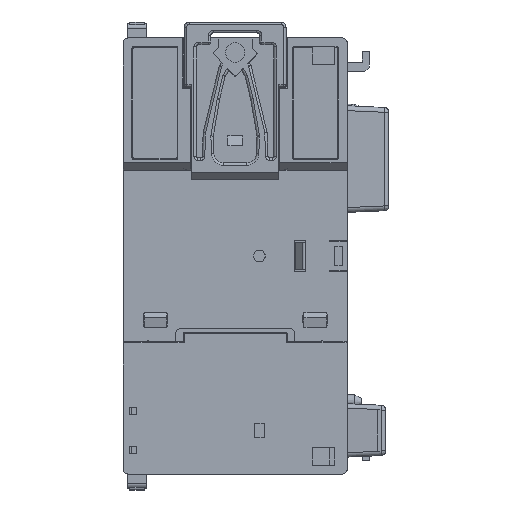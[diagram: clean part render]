
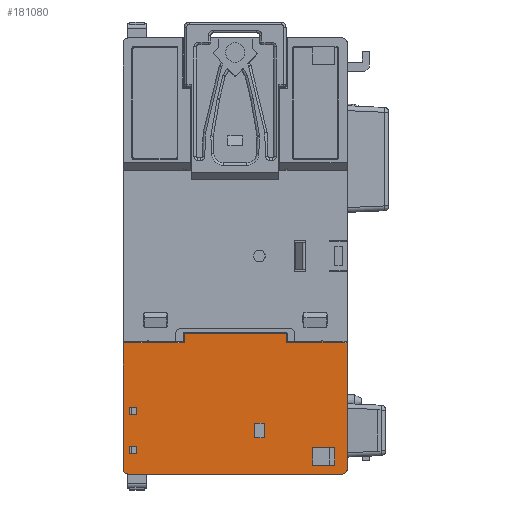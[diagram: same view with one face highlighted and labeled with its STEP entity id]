
A CAD part, front view. The second image highlights one B-rep face of the part: STEP entity #181080.
In plain terms, the highlighted planar face has unit normal (0, -1, 0).
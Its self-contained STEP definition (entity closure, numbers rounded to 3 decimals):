
#30656=DIRECTION('',(0.,0.,-1.));
#30657=VECTOR('',#30656,26.05);
#30658=CARTESIAN_POINT('',(23.1,0.,-17.95));
#30659=LINE('',#30658,#30657);
#30663=DIRECTION('',(-1.,0.,0.));
#30664=VECTOR('',#30663,44.2);
#30665=CARTESIAN_POINT('',(22.1,0.,-45.));
#30666=LINE('',#30665,#30664);
#30670=DIRECTION('',(0.,0.,1.));
#30671=VECTOR('',#30670,26.05);
#30672=CARTESIAN_POINT('',(-23.1,0.,-44.));
#30673=LINE('',#30672,#30671);
#30719=DIRECTION('',(0.,0.,1.));
#30720=VECTOR('',#30719,1.5);
#30721=CARTESIAN_POINT('',(-21.8,0.,-40.75));
#30722=LINE('',#30721,#30720);
#30726=DIRECTION('',(-1.,0.,0.));
#30727=VECTOR('',#30726,1.5);
#30728=CARTESIAN_POINT('',(-20.3,0.,-40.75));
#30729=LINE('',#30728,#30727);
#30733=DIRECTION('',(0.,0.,-1.));
#30734=VECTOR('',#30733,1.5);
#30735=CARTESIAN_POINT('',(-20.3,0.,-39.25));
#30736=LINE('',#30735,#30734);
#30740=DIRECTION('',(1.,0.,0.));
#30741=VECTOR('',#30740,1.5);
#30742=CARTESIAN_POINT('',(-21.8,0.,-39.25));
#30743=LINE('',#30742,#30741);
#30747=DIRECTION('',(0.,0.,1.));
#30748=VECTOR('',#30747,1.5);
#30749=CARTESIAN_POINT('',(-21.8,0.,-32.75));
#30750=LINE('',#30749,#30748);
#30754=DIRECTION('',(-1.,0.,0.));
#30755=VECTOR('',#30754,1.5);
#30756=CARTESIAN_POINT('',(-20.3,0.,-32.75));
#30757=LINE('',#30756,#30755);
#30761=DIRECTION('',(0.,0.,-1.));
#30762=VECTOR('',#30761,1.5);
#30763=CARTESIAN_POINT('',(-20.3,0.,-31.25));
#30764=LINE('',#30763,#30762);
#30768=DIRECTION('',(1.,0.,0.));
#30769=VECTOR('',#30768,1.5);
#30770=CARTESIAN_POINT('',(-21.8,0.,-31.25));
#30771=LINE('',#30770,#30769);
#30775=DIRECTION('',(0.,0.,1.));
#30776=VECTOR('',#30775,3.7);
#30777=CARTESIAN_POINT('',(20.55,0.,-43.2));
#30778=LINE('',#30777,#30776);
#30782=DIRECTION('',(-1.,0.,0.));
#30783=VECTOR('',#30782,4.55);
#30784=CARTESIAN_POINT('',(20.55,0.,-39.5));
#30785=LINE('',#30784,#30783);
#30789=DIRECTION('',(0.,0.,-1.));
#30790=VECTOR('',#30789,3.7);
#30791=CARTESIAN_POINT('',(16.,0.,-39.5));
#30792=LINE('',#30791,#30790);
#30796=DIRECTION('',(1.,0.,0.));
#30797=VECTOR('',#30796,4.55);
#30798=CARTESIAN_POINT('',(16.,0.,-43.2));
#30799=LINE('',#30798,#30797);
#30810=DIRECTION('',(0.,0.,1.));
#30811=VECTOR('',#30810,3.);
#30812=CARTESIAN_POINT('',(4.,0.,-37.5));
#30813=LINE('',#30812,#30811);
#30817=DIRECTION('',(-1.,0.,0.));
#30818=VECTOR('',#30817,2.);
#30819=CARTESIAN_POINT('',(6.,0.,-37.5));
#30820=LINE('',#30819,#30818);
#30824=DIRECTION('',(0.,0.,-1.));
#30825=VECTOR('',#30824,3.);
#30826=CARTESIAN_POINT('',(6.,0.,-34.5));
#30827=LINE('',#30826,#30825);
#30831=DIRECTION('',(1.,0.,0.));
#30832=VECTOR('',#30831,2.);
#30833=CARTESIAN_POINT('',(4.,0.,-34.5));
#30834=LINE('',#30833,#30832);
#30838=DIRECTION('',(-1.,0.,0.));
#30839=VECTOR('',#30838,7.3);
#30840=CARTESIAN_POINT('',(17.85,0.,-17.95));
#30841=LINE('',#30840,#30839);
#30863=DIRECTION('',(0.,0.,1.));
#30864=VECTOR('',#30863,1.95);
#30865=CARTESIAN_POINT('',(10.55,0.,-17.95));
#30866=LINE('',#30865,#30864);
#30895=DIRECTION('',(-1.,0.,0.));
#30896=VECTOR('',#30895,21.1);
#30897=CARTESIAN_POINT('',(10.55,0.,-16.));
#30898=LINE('',#30897,#30896);
#30925=DIRECTION('',(0.,0.,-1.));
#30926=VECTOR('',#30925,1.95);
#30927=CARTESIAN_POINT('',(-10.55,0.,-16.));
#30928=LINE('',#30927,#30926);
#30964=DIRECTION('',(-1.,0.,0.));
#30965=VECTOR('',#30964,7.3);
#30966=CARTESIAN_POINT('',(-10.55,0.,-17.95));
#30967=LINE('',#30966,#30965);
#31063=DIRECTION('',(-1.,0.,0.));
#31064=VECTOR('',#31063,4.95);
#31065=CARTESIAN_POINT('',(-18.15,0.,-17.95));
#31066=LINE('',#31065,#31064);
#31078=CARTESIAN_POINT('',(-18.,0.,-17.75));
#31079=DIRECTION('',(0.,-1.,0.));
#31080=DIRECTION('',(0.6,0.,-0.8));
#31081=AXIS2_PLACEMENT_3D('',#31078,#31079,#31080);
#38857=CARTESIAN_POINT('',(-22.1,0.,-44.));
#38858=DIRECTION('',(0.,-1.,0.));
#38859=DIRECTION('',(-1.,0.,0.));
#38860=AXIS2_PLACEMENT_3D('',#38857,#38858,#38859);
#63115=CARTESIAN_POINT('',(22.1,0.,-44.));
#63116=DIRECTION('',(0.,-1.,0.));
#63117=DIRECTION('',(0.,0.,-1.));
#63118=AXIS2_PLACEMENT_3D('',#63115,#63116,#63117);
#63977=DIRECTION('',(-1.,0.,0.));
#63978=VECTOR('',#63977,4.95);
#63979=CARTESIAN_POINT('',(23.1,0.,-17.95));
#63980=LINE('',#63979,#63978);
#63995=CARTESIAN_POINT('',(18.,0.,-17.75));
#63996=DIRECTION('',(0.,-1.,0.));
#63997=DIRECTION('',(0.6,0.,-0.8));
#63998=AXIS2_PLACEMENT_3D('',#63995,#63996,#63997);
#125012=CARTESIAN_POINT('',(22.1,0.,-45.));
#125013=CARTESIAN_POINT('',(23.1,0.,-44.));
#125014=VERTEX_POINT('',#125012);
#125015=VERTEX_POINT('',#125013);
#125016=CARTESIAN_POINT('',(-23.1,0.,-44.));
#125017=CARTESIAN_POINT('',(-22.1,0.,-45.));
#125018=VERTEX_POINT('',#125016);
#125019=VERTEX_POINT('',#125017);
#125144=CARTESIAN_POINT('',(17.85,0.,-17.95));
#125145=CARTESIAN_POINT('',(10.55,0.,-17.95));
#125146=VERTEX_POINT('',#125144);
#125147=VERTEX_POINT('',#125145);
#125152=CARTESIAN_POINT('',(10.55,0.,-16.));
#125153=VERTEX_POINT('',#125152);
#125166=CARTESIAN_POINT('',(-10.55,0.,-16.));
#125167=VERTEX_POINT('',#125166);
#125168=CARTESIAN_POINT('',(-10.55,0.,-17.95));
#125169=VERTEX_POINT('',#125168);
#125174=CARTESIAN_POINT('',(-17.85,0.,-17.95));
#125175=VERTEX_POINT('',#125174);
#125196=CARTESIAN_POINT('',(-18.15,0.,-17.95));
#125197=CARTESIAN_POINT('',(-23.1,0.,-17.95));
#125198=VERTEX_POINT('',#125196);
#125199=VERTEX_POINT('',#125197);
#125204=CARTESIAN_POINT('',(23.1,0.,-17.95));
#125205=VERTEX_POINT('',#125204);
#125206=CARTESIAN_POINT('',(18.15,0.,-17.95));
#125207=VERTEX_POINT('',#125206);
#125466=CARTESIAN_POINT('',(-21.8,0.,-40.75));
#125467=CARTESIAN_POINT('',(-21.8,0.,-39.25));
#125468=VERTEX_POINT('',#125466);
#125469=VERTEX_POINT('',#125467);
#125470=CARTESIAN_POINT('',(-20.3,0.,-39.25));
#125471=VERTEX_POINT('',#125470);
#125472=CARTESIAN_POINT('',(-20.3,0.,-40.75));
#125473=VERTEX_POINT('',#125472);
#125474=CARTESIAN_POINT('',(-21.8,0.,-32.75));
#125475=CARTESIAN_POINT('',(-21.8,0.,-31.25));
#125476=VERTEX_POINT('',#125474);
#125477=VERTEX_POINT('',#125475);
#125478=CARTESIAN_POINT('',(-20.3,0.,-31.25));
#125479=VERTEX_POINT('',#125478);
#125480=CARTESIAN_POINT('',(-20.3,0.,-32.75));
#125481=VERTEX_POINT('',#125480);
#125494=CARTESIAN_POINT('',(16.,0.,-43.2));
#125495=CARTESIAN_POINT('',(20.55,0.,-43.2));
#125496=VERTEX_POINT('',#125494);
#125497=VERTEX_POINT('',#125495);
#125500=CARTESIAN_POINT('',(4.,0.,-37.5));
#125501=CARTESIAN_POINT('',(4.,0.,-34.5));
#125502=VERTEX_POINT('',#125500);
#125503=VERTEX_POINT('',#125501);
#125504=CARTESIAN_POINT('',(6.,0.,-34.5));
#125505=VERTEX_POINT('',#125504);
#125506=CARTESIAN_POINT('',(6.,0.,-37.5));
#125507=VERTEX_POINT('',#125506);
#126588=CARTESIAN_POINT('',(20.55,0.,-39.5));
#126589=VERTEX_POINT('',#126588);
#126590=CARTESIAN_POINT('',(16.,0.,-39.5));
#126591=VERTEX_POINT('',#126590);
#181007=CARTESIAN_POINT('',(0.,0.,0.));
#181008=DIRECTION('',(0.,1.,0.));
#181009=DIRECTION('',(1.,0.,0.));
#181010=AXIS2_PLACEMENT_3D('',#181007,#181008,#181009);
#181011=PLANE('',#181010);
#181013=ORIENTED_EDGE('',*,*,#181012,.F.);
#181015=ORIENTED_EDGE('',*,*,#181014,.F.);
#181017=ORIENTED_EDGE('',*,*,#181016,.F.);
#181018=ORIENTED_EDGE('',*,*,#177067,.T.);
#181020=ORIENTED_EDGE('',*,*,#181019,.F.);
#181022=ORIENTED_EDGE('',*,*,#181021,.T.);
#181024=ORIENTED_EDGE('',*,*,#181023,.F.);
#181026=ORIENTED_EDGE('',*,*,#181025,.T.);
#181028=ORIENTED_EDGE('',*,*,#181027,.F.);
#181030=ORIENTED_EDGE('',*,*,#181029,.F.);
#181032=ORIENTED_EDGE('',*,*,#181031,.F.);
#181034=ORIENTED_EDGE('',*,*,#181033,.F.);
#181036=ORIENTED_EDGE('',*,*,#181035,.F.);
#181038=ORIENTED_EDGE('',*,*,#181037,.F.);
#181039=EDGE_LOOP('',(#181013,#181015,#181017,#181018,#181020,#181022,#181024,
#181026,#181028,#181030,#181032,#181034,#181036,#181038));
#181040=FACE_OUTER_BOUND('',#181039,.F.);
#181042=ORIENTED_EDGE('',*,*,#181041,.F.);
#181044=ORIENTED_EDGE('',*,*,#181043,.F.);
#181046=ORIENTED_EDGE('',*,*,#181045,.F.);
#181048=ORIENTED_EDGE('',*,*,#181047,.F.);
#181049=EDGE_LOOP('',(#181042,#181044,#181046,#181048));
#181050=FACE_BOUND('',#181049,.F.);
#181052=ORIENTED_EDGE('',*,*,#181051,.F.);
#181054=ORIENTED_EDGE('',*,*,#181053,.F.);
#181056=ORIENTED_EDGE('',*,*,#181055,.F.);
#181058=ORIENTED_EDGE('',*,*,#181057,.F.);
#181059=EDGE_LOOP('',(#181052,#181054,#181056,#181058));
#181060=FACE_BOUND('',#181059,.F.);
#181062=ORIENTED_EDGE('',*,*,#181061,.T.);
#181064=ORIENTED_EDGE('',*,*,#181063,.T.);
#181066=ORIENTED_EDGE('',*,*,#181065,.T.);
#181067=ORIENTED_EDGE('',*,*,#176989,.T.);
#181068=EDGE_LOOP('',(#181062,#181064,#181066,#181067));
#181069=FACE_BOUND('',#181068,.F.);
#181071=ORIENTED_EDGE('',*,*,#181070,.F.);
#181073=ORIENTED_EDGE('',*,*,#181072,.F.);
#181075=ORIENTED_EDGE('',*,*,#181074,.F.);
#181077=ORIENTED_EDGE('',*,*,#181076,.F.);
#181078=EDGE_LOOP('',(#181071,#181073,#181075,#181077));
#181079=FACE_BOUND('',#181078,.F.);
#181080=ADVANCED_FACE('',(#181040,#181050,#181060,#181069,#181079),#181011,.F.);
#31082=CIRCLE('',#31081,0.25);
#38861=CIRCLE('',#38860,1.);
#63119=CIRCLE('',#63118,1.);
#63999=CIRCLE('',#63998,0.25);
#176989=EDGE_CURVE('',#125496,#125497,#30799,.T.);
#177067=EDGE_CURVE('',#125205,#125015,#30659,.T.);
#181012=EDGE_CURVE('',#125146,#125147,#30841,.T.);
#181014=EDGE_CURVE('',#125207,#125146,#63999,.T.);
#181016=EDGE_CURVE('',#125205,#125207,#63980,.T.);
#181019=EDGE_CURVE('',#125014,#125015,#63119,.T.);
#181021=EDGE_CURVE('',#125014,#125019,#30666,.T.);
#181023=EDGE_CURVE('',#125018,#125019,#38861,.T.);
#181025=EDGE_CURVE('',#125018,#125199,#30673,.T.);
#181027=EDGE_CURVE('',#125198,#125199,#31066,.T.);
#181029=EDGE_CURVE('',#125175,#125198,#31082,.T.);
#181031=EDGE_CURVE('',#125169,#125175,#30967,.T.);
#181033=EDGE_CURVE('',#125167,#125169,#30928,.T.);
#181035=EDGE_CURVE('',#125153,#125167,#30898,.T.);
#181037=EDGE_CURVE('',#125147,#125153,#30866,.T.);
#181041=EDGE_CURVE('',#125468,#125469,#30722,.T.);
#181043=EDGE_CURVE('',#125473,#125468,#30729,.T.);
#181045=EDGE_CURVE('',#125471,#125473,#30736,.T.);
#181047=EDGE_CURVE('',#125469,#125471,#30743,.T.);
#181051=EDGE_CURVE('',#125476,#125477,#30750,.T.);
#181053=EDGE_CURVE('',#125481,#125476,#30757,.T.);
#181055=EDGE_CURVE('',#125479,#125481,#30764,.T.);
#181057=EDGE_CURVE('',#125477,#125479,#30771,.T.);
#181061=EDGE_CURVE('',#125497,#126589,#30778,.T.);
#181063=EDGE_CURVE('',#126589,#126591,#30785,.T.);
#181065=EDGE_CURVE('',#126591,#125496,#30792,.T.);
#181070=EDGE_CURVE('',#125502,#125503,#30813,.T.);
#181072=EDGE_CURVE('',#125507,#125502,#30820,.T.);
#181074=EDGE_CURVE('',#125505,#125507,#30827,.T.);
#181076=EDGE_CURVE('',#125503,#125505,#30834,.T.);
